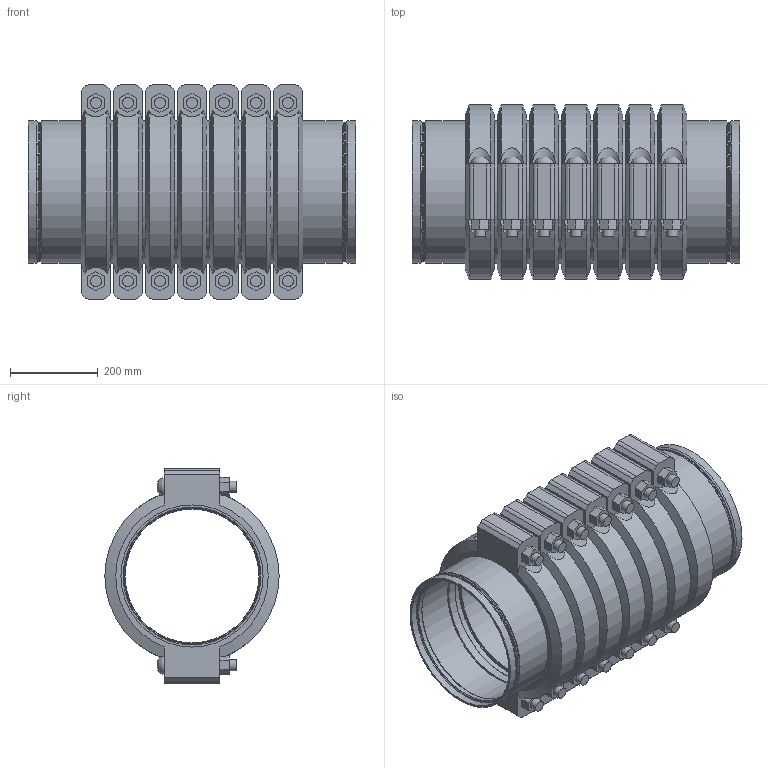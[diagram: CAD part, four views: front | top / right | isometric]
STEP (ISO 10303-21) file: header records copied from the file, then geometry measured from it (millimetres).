
FILE_DESCRIPTION(/* description */ ('VIC STRENGTHIN 100 EXPANSION JOINT 7 COUPLINGS NEUTRAL STYLE E155 (ST1)','CAx-IF Rec.Pracs.---Representation and Presentation of Product Manufacturing Information (PMI)---4.0---2014-10-13'),/* implementation_level */ '2;1');
FILE_NAME(/* name */ 'C:\Users\Vjadhav\AppData\Roaming\Autodesk\ApplicationPlugins\Victaulic.Temp\A857\Victaulic_SS-StrengThin 100_Expansion Joint_Neutral_7 Couplings_Style E155 (ST1)_7 Coup_Neut_12 (300).stp',/* time_stamp */ '2021-07-20T17:50:14+05:00',/* author */ ('kkamble'),/* organization */ ('Victaulic'),/* preprocessor_version */ 'ST-DEVELOPER v17.2',/* originating_system */ 'Autodesk Inventor 2019',/* authorisation */ '');
FILE_SCHEMA (('AP242_MANAGED_MODEL_BASED_3D_ENGINEERING_MIM_LF { 1 0 10303 442 1 1 4 }'));
Length unit declared in the file: inch
Products named in the file (4): E155-12.0; E494G-12.0; Nipple-12.0; 077-12.0
Assembly tree (15 placements, depth 2):
  E155-12.0
    E494G-12.0  x2
    Nipple-12.0  x6
    077-12.0  x7
Bounding box: 746.25 x 397 x 488.95 mm (x, y, z)
Volume: 28935321.1 mm3; surface area: 3906683.5 mm2
Topology: 15 solids, 29 shells, 569 faces, 1425 edges, 1004 vertices
Faces by surface type: plane 302, cylinder 189, torus 32, cone 32, bspline 14
Full cylindrical faces by diameter (mm): 25.4 x28, 27.432 x14, 304.8 x6, 306.426 x2, 308.737 x2, 314.3 x6, 314.96 x7, 315.976 x2, 318.287 x14, 323.85 x38
Entity records: 4089 total; most frequent: CARTESIAN_POINT 834, DIRECTION 695, ORIENTED_EDGE 580, AXIS2_PLACEMENT_3D 300, EDGE_CURVE 290, VERTEX_POINT 209, CIRCLE 175, EDGE_LOOP 135
